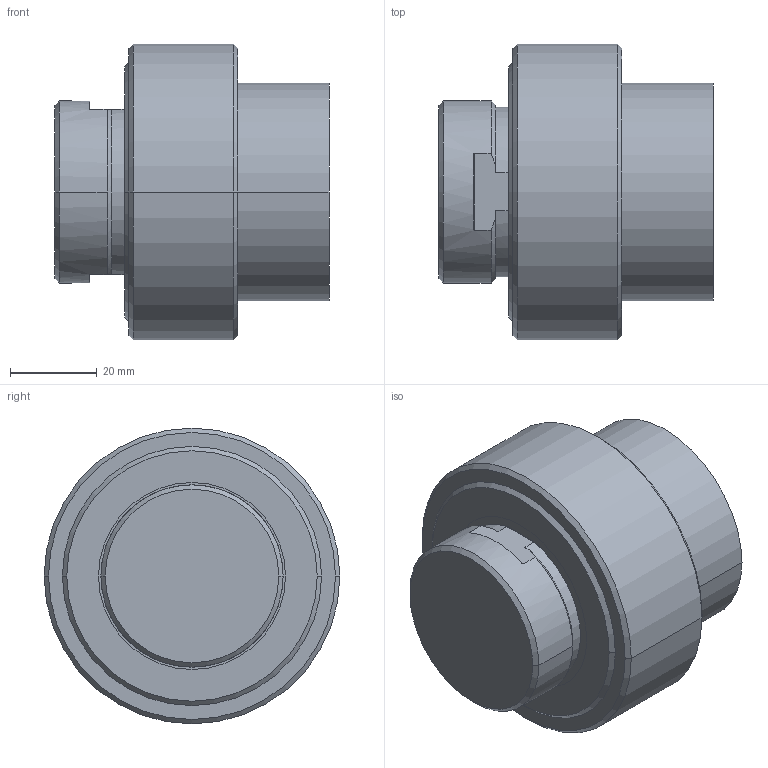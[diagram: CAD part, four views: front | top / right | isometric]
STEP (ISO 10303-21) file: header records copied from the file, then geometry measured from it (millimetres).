
FILE_DESCRIPTION((''),'2;1');
FILE_NAME('71118023V_F0','2012-04-23T',('LVVCSAVA'),('Copyright by Leybold GmbH'),'PRO/ENGINEER BY PARAMETRIC TECHNOLOGY CORPORATION, 2010430','PRO/ENGINEER BY PARAMETRIC TECHNOLOGY CORPORATION, 2010430','');
FILE_SCHEMA(('AUTOMOTIVE_DESIGN { 1 0 10303 214 1 1 1 1 }'));
Length unit declared in the file: millimetre
Products named in the file (1): 71118023V_F0
Bounding box: 63 x 68 x 68 mm (x, y, z)
Surface area: 26064.4 mm2 (no closed solid volume)
Topology: 0 solids, 5 shells, 34 faces, 80 edges, 52 vertices
Faces by surface type: plane 12, cylinder 12, cone 10
Entity records: 1089 total; most frequent: CARTESIAN_POINT 273, DIRECTION 170, ORIENTED_EDGE 150, EDGE_CURVE 80, AXIS2_PLACEMENT_3D 68, VERTEX_POINT 52, VECTOR 34, LINE 34
